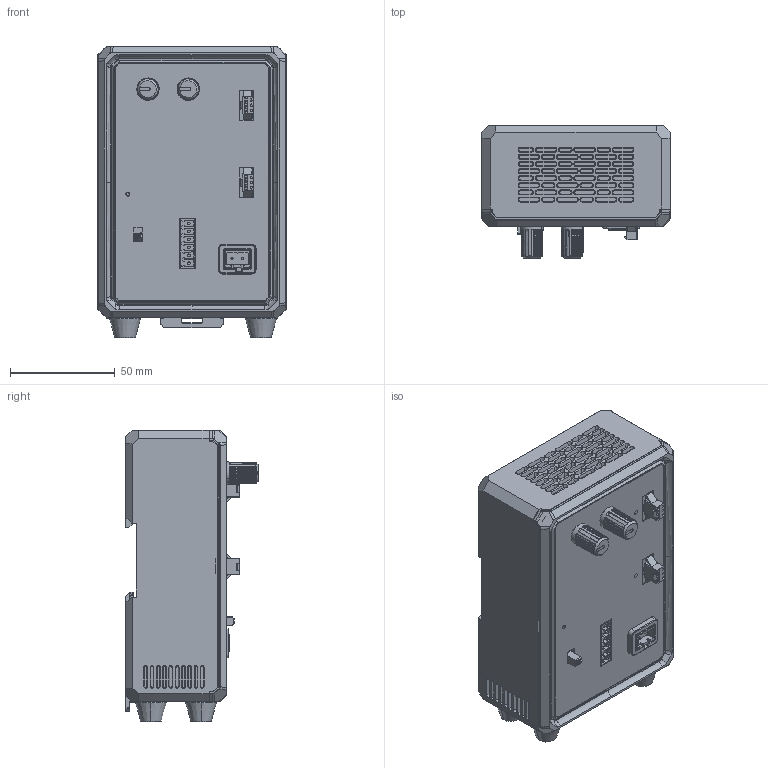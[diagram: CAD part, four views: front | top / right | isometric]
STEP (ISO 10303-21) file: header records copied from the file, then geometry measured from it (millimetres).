
FILE_DESCRIPTION((''),'2;1');
FILE_NAME('MV-LE100-48W24-2-0001','2024-04-07T11:05:33',('qinyangfan'),(''),'CREO PARAMETRIC BY PTC INC, 2020044','CREO PARAMETRIC BY PTC INC, 2020044','');
FILE_SCHEMA(('CONFIG_CONTROL_DESIGN'));
Products named in the file (1): MV-LE100-48W24-2-0001
Bounding box: 90.08 x 63.33 x 139.54 mm (x, y, z)
Volume: 516684.4 mm3; surface area: 62690.2 mm2
Topology: 1 solids, 11 shells, 2821 faces, 7944 edges, 5252 vertices
Faces by surface type: plane 1608, cylinder 619, cone 302, bspline 103, sphere 87, torus 64, extrusion 38
Entity records: 104429 total; most frequent: CARTESIAN_POINT 32414, ORIENTED_EDGE 15710, DIRECTION 14130, EDGE_CURVE 7855, VERTEX_POINT 5252, VECTOR 4720, AXIS2_PLACEMENT_3D 4705, LINE 4682
